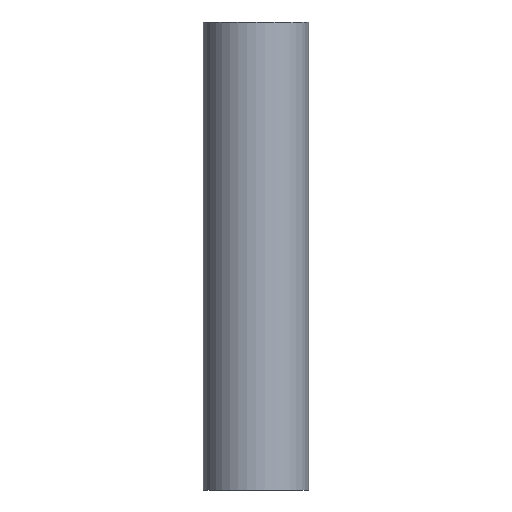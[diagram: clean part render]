
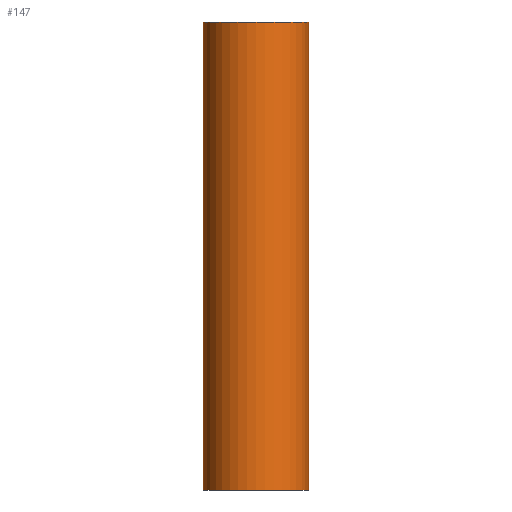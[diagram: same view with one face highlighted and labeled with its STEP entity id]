
A CAD part, front view. The second image highlights one B-rep face of the part: STEP entity #147.
In plain terms, the highlighted cylindrical face has radius 16.85 mm (diameter 33.7 mm), a partial arc.
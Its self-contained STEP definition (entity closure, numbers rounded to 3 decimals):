
#26 = CARTESIAN_POINT ( 'NONE',  ( 0., 0., 150. ) ) ;
#33 = FACE_OUTER_BOUND ( 'NONE', #87, .T. ) ;
#34 = CARTESIAN_POINT ( 'NONE',  ( -16.85, 0., 0. ) ) ;
#44 = CYLINDRICAL_SURFACE ( 'NONE', #55, 16.85 ) ;
#51 = DIRECTION ( 'NONE',  ( 1., 0., 0. ) ) ;
#52 = DIRECTION ( 'NONE',  ( 0., 0., 1. ) ) ;
#55 = AXIS2_PLACEMENT_3D ( 'NONE', #26, #101, #100 ) ;
#59 = CIRCLE ( 'NONE', #183, 16.85 ) ;
#72 = ORIENTED_EDGE ( 'NONE', *, *, #195, .F. ) ;
#79 = EDGE_CURVE ( 'NONE', #141, #93, #59, .T. ) ;
#87 = EDGE_LOOP ( 'NONE', ( #72, #149, #148, #140 ) ) ;
#93 = VERTEX_POINT ( 'NONE', #175 ) ;
#98 = LINE ( 'NONE', #118, #117 ) ;
#99 = CIRCLE ( 'NONE', #106, 16.85 ) ;
#100 = DIRECTION ( 'NONE',  ( -1., 0., 0. ) ) ;
#101 = DIRECTION ( 'NONE',  ( 0., 0., -1. ) ) ;
#106 = AXIS2_PLACEMENT_3D ( 'NONE', #166, #164, #163 ) ;
#116 = DIRECTION ( 'NONE',  ( 0., 0., -1. ) ) ;
#117 = VECTOR ( 'NONE', #116, 1000. ) ;
#118 = CARTESIAN_POINT ( 'NONE',  ( 16.85, 0., 150. ) ) ;
#140 = ORIENTED_EDGE ( 'NONE', *, *, #79, .T. ) ;
#141 = VERTEX_POINT ( 'NONE', #34 ) ;
#147 = ADVANCED_FACE ( 'NONE', ( #33 ), #44, .T. ) ;
#148 = ORIENTED_EDGE ( 'NONE', *, *, #152, .T. ) ;
#149 = ORIENTED_EDGE ( 'NONE', *, *, #151, .F. ) ;
#151 = EDGE_CURVE ( 'NONE', #179, #196, #99, .T. ) ;
#152 = EDGE_CURVE ( 'NONE', #179, #141, #161, .T. ) ;
#158 = DIRECTION ( 'NONE',  ( 0., 0., -1. ) ) ;
#159 = VECTOR ( 'NONE', #158, 1000. ) ;
#160 = CARTESIAN_POINT ( 'NONE',  ( -16.85, 0., 150. ) ) ;
#161 = LINE ( 'NONE', #160, #159 ) ;
#162 = CARTESIAN_POINT ( 'NONE',  ( -16.85, 0., 150. ) ) ;
#163 = DIRECTION ( 'NONE',  ( 1., 0., 0. ) ) ;
#164 = DIRECTION ( 'NONE',  ( 0., 0., 1. ) ) ;
#165 = CARTESIAN_POINT ( 'NONE',  ( 16.85, 0., 150. ) ) ;
#166 = CARTESIAN_POINT ( 'NONE',  ( 0., 0., 150. ) ) ;
#175 = CARTESIAN_POINT ( 'NONE',  ( 16.85, 0., 0. ) ) ;
#179 = VERTEX_POINT ( 'NONE', #162 ) ;
#182 = CARTESIAN_POINT ( 'NONE',  ( 0., 0., 0. ) ) ;
#183 = AXIS2_PLACEMENT_3D ( 'NONE', #182, #52, #51 ) ;
#195 = EDGE_CURVE ( 'NONE', #196, #93, #98, .T. ) ;
#196 = VERTEX_POINT ( 'NONE', #165 ) ;
